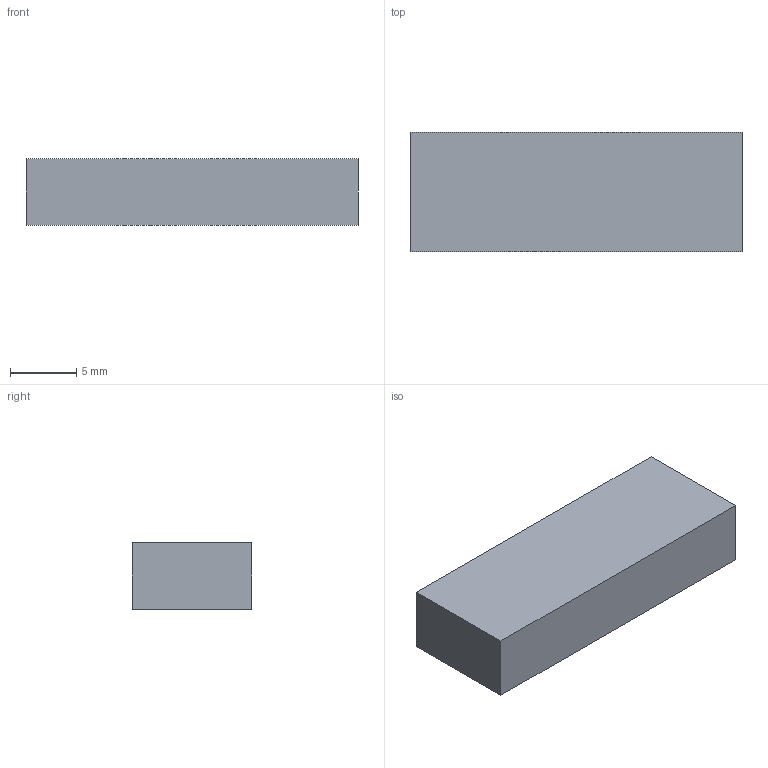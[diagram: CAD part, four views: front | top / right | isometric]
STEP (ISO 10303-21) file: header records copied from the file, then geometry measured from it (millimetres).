
FILE_DESCRIPTION(('Open CASCADE Model'),'2;1');
FILE_NAME('Open CASCADE Shape Model','2026-10-04T01:02:30',('Author'),( 'Open CASCADE'),'Open CASCADE STEP processor 8.0','Open CASCADE 8.0' ,'Unknown');
FILE_SCHEMA(('AUTOMOTIVE_DESIGN { 1 0 10303 214 1 1 1 1 }'));
Length unit declared in the file: millimetre
Products named in the file (1): Open CASCADE STEP translator 8.0 253
Bounding box: 25 x 9 x 5 mm (x, y, z)
Volume: 1125 mm3; surface area: 790 mm2
Topology: 1 solids, 1 shells, 6 faces, 12 edges, 8 vertices
Faces by surface type: plane 6
Entity records: 322 total; most frequent: CARTESIAN_POINT 51, DIRECTION 50, LINE 36, VECTOR 36, ORIENTED_EDGE 24, PCURVE 24, DEFINITIONAL_REPRESENTATION 24, EDGE_CURVE 12
